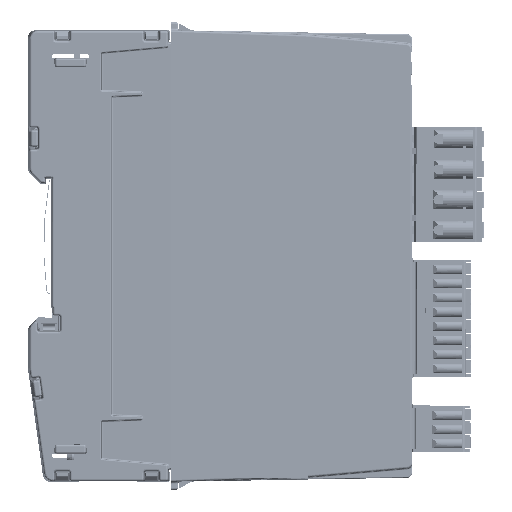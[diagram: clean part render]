
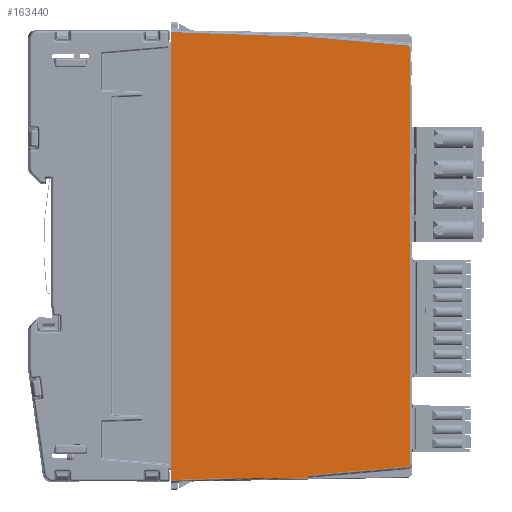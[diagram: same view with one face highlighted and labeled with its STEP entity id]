
A CAD part, left-side view. The second image highlights one B-rep face of the part: STEP entity #163440.
In plain terms, the highlighted planar face has unit normal (-1, -0.018, 0).
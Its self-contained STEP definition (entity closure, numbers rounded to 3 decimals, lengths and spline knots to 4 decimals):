
#15613=FACE_OUTER_BOUND('',#24674,.T.);
#24674=EDGE_LOOP('',(#137812,#137813,#137814,#137815,#137816,#137817,#137818,
#137819,#137820,#137821,#137822,#137823,#137824));
#40673=LINE('',#278862,#57167);
#40686=LINE('',#278934,#57180);
#40743=LINE('',#279162,#57237);
#41060=LINE('',#280386,#57554);
#41061=LINE('',#280388,#57555);
#41062=LINE('',#280392,#57556);
#41063=LINE('',#280396,#57557);
#41064=LINE('',#280398,#57558);
#41065=LINE('',#280400,#57559);
#41066=LINE('',#280402,#57560);
#41067=LINE('',#280403,#57561);
#57167=VECTOR('',#215198,0.3937);
#57180=VECTOR('',#215239,0.3937);
#57237=VECTOR('',#215434,39.3701);
#57554=VECTOR('',#216159,39.3701);
#57555=VECTOR('',#216160,39.3701);
#57556=VECTOR('',#216163,39.3701);
#57557=VECTOR('',#216166,39.3701);
#57558=VECTOR('',#216167,39.3701);
#57559=VECTOR('',#216168,39.3701);
#57560=VECTOR('',#216169,39.3701);
#57561=VECTOR('',#216170,39.3701);
#59909=ELLIPSE('',#175996,0.0315,0.0315);
#59910=ELLIPSE('',#175997,0.0315,0.0315);
#73055=VERTEX_POINT('',#278858);
#73057=VERTEX_POINT('',#278861);
#73079=VERTEX_POINT('',#278929);
#73137=VERTEX_POINT('',#279161);
#73452=VERTEX_POINT('',#280385);
#73453=VERTEX_POINT('',#280387);
#73454=VERTEX_POINT('',#280389);
#73455=VERTEX_POINT('',#280391);
#73456=VERTEX_POINT('',#280393);
#73457=VERTEX_POINT('',#280395);
#73458=VERTEX_POINT('',#280397);
#73459=VERTEX_POINT('',#280399);
#73460=VERTEX_POINT('',#280401);
#94537=EDGE_CURVE('',#73055,#73057,#40673,.T.);
#94564=EDGE_CURVE('',#73057,#73079,#40686,.T.);
#94657=EDGE_CURVE('',#73137,#73079,#40743,.T.);
#95106=EDGE_CURVE('',#73055,#73452,#41060,.T.);
#95107=EDGE_CURVE('',#73452,#73453,#41061,.T.);
#95108=EDGE_CURVE('',#73453,#73454,#59909,.T.);
#95109=EDGE_CURVE('',#73454,#73455,#41062,.T.);
#95110=EDGE_CURVE('',#73455,#73456,#59910,.T.);
#95111=EDGE_CURVE('',#73456,#73457,#41063,.T.);
#95112=EDGE_CURVE('',#73457,#73458,#41064,.T.);
#95113=EDGE_CURVE('',#73458,#73459,#41065,.T.);
#95114=EDGE_CURVE('',#73460,#73459,#41066,.T.);
#95115=EDGE_CURVE('',#73460,#73137,#41067,.T.);
#137812=ORIENTED_EDGE('',*,*,#95106,.T.);
#137813=ORIENTED_EDGE('',*,*,#95107,.T.);
#137814=ORIENTED_EDGE('',*,*,#95108,.T.);
#137815=ORIENTED_EDGE('',*,*,#95109,.T.);
#137816=ORIENTED_EDGE('',*,*,#95110,.T.);
#137817=ORIENTED_EDGE('',*,*,#95111,.T.);
#137818=ORIENTED_EDGE('',*,*,#95112,.T.);
#137819=ORIENTED_EDGE('',*,*,#95113,.T.);
#137820=ORIENTED_EDGE('',*,*,#95114,.F.);
#137821=ORIENTED_EDGE('',*,*,#95115,.T.);
#137822=ORIENTED_EDGE('',*,*,#94657,.T.);
#137823=ORIENTED_EDGE('',*,*,#94564,.F.);
#137824=ORIENTED_EDGE('',*,*,#94537,.F.);
#147037=PLANE('',#175995);
#163440=ADVANCED_FACE('',(#15613),#147037,.T.);
#175995=AXIS2_PLACEMENT_3D('',#280384,#216157,#216158);
#175996=AXIS2_PLACEMENT_3D('',#280390,#216161,#216162);
#175997=AXIS2_PLACEMENT_3D('',#280394,#216164,#216165);
#215198=DIRECTION('',(0.,0.,-1.));
#215239=DIRECTION('',(-0.017,1.,0.));
#215434=DIRECTION('',(0.017,-0.999,0.035));
#216157=DIRECTION('center_axis',(-1.,-0.017,
0.));
#216158=DIRECTION('ref_axis',(-0.017,1.,0.));
#216159=DIRECTION('',(0.017,-0.999,0.035));
#216160=DIRECTION('',(0.017,-0.996,0.087));
#216161=DIRECTION('center_axis',(-1.,-0.017,
0.));
#216162=DIRECTION('ref_axis',(0.017,-1.,0.));
#216163=DIRECTION('',(0.,0.,1.));
#216164=DIRECTION('center_axis',(-1.,-0.017,
0.));
#216165=DIRECTION('ref_axis',(0.017,-1.,0.));
#216166=DIRECTION('',(-0.017,0.996,0.087));
#216167=DIRECTION('',(-0.017,0.999,0.035));
#216168=DIRECTION('',(0.,0.,-1.));
#216169=DIRECTION('',(0.,0.,1.));
#216170=DIRECTION('',(0.,0.,-1.));
#278858=CARTESIAN_POINT('',(0.0005,-2.2096,-4.1958));
#278861=CARTESIAN_POINT('',(0.0005,-2.2096,-4.2206));
#278862=CARTESIAN_POINT('',(0.0005,-2.2096,-3.155));
#278929=CARTESIAN_POINT('',(-0.0119,-1.4997,-4.2206));
#278934=CARTESIAN_POINT('',(-0.0131,-1.4351,-4.2206));
#279161=CARTESIAN_POINT('',(-0.0227,-0.8827,-4.2421));
#279162=CARTESIAN_POINT('',(-0.0282,-0.5654,-4.2532));
#280384=CARTESIAN_POINT('Origin',(-0.0296,-0.489,
-2.0669));
#280385=CARTESIAN_POINT('',(0.0007,-2.2205,-4.1954));
#280386=CARTESIAN_POINT('',(-0.0282,-0.5654,-4.2532));
#280387=CARTESIAN_POINT('',(0.0174,-3.1772,-4.1117));
#280388=CARTESIAN_POINT('',(-0.0261,-0.6869,-4.3296));
#280389=CARTESIAN_POINT('',(0.0179,-3.2059,-4.0803));
#280390=CARTESIAN_POINT('Origin',(0.0173,-3.1744,
-4.0803));
#280391=CARTESIAN_POINT('',(0.0179,-3.2059,-0.0535));
#280392=CARTESIAN_POINT('',(0.0179,-3.2059,-0.0535));
#280393=CARTESIAN_POINT('',(0.0174,-3.1772,-0.0221));
#280394=CARTESIAN_POINT('Origin',(0.0173,-3.1744,
-0.0535));
#280395=CARTESIAN_POINT('',(0.0007,-2.2205,0.0616));
#280396=CARTESIAN_POINT('',(-0.0261,-0.6869,0.1957));
#280397=CARTESIAN_POINT('',(-0.0227,-0.8827,0.1083));
#280398=CARTESIAN_POINT('',(-0.0282,-0.5654,0.1194));
#280399=CARTESIAN_POINT('',(-0.0227,-0.8827,-0.0312));
#280400=CARTESIAN_POINT('',(-0.0227,-0.8827,0.128));
#280401=CARTESIAN_POINT('',(-0.0227,-0.8827,-4.1027));
#280402=CARTESIAN_POINT('',(-0.0227,-0.8827,-7.5932));
#280403=CARTESIAN_POINT('',(-0.0227,-0.8827,0.128));
